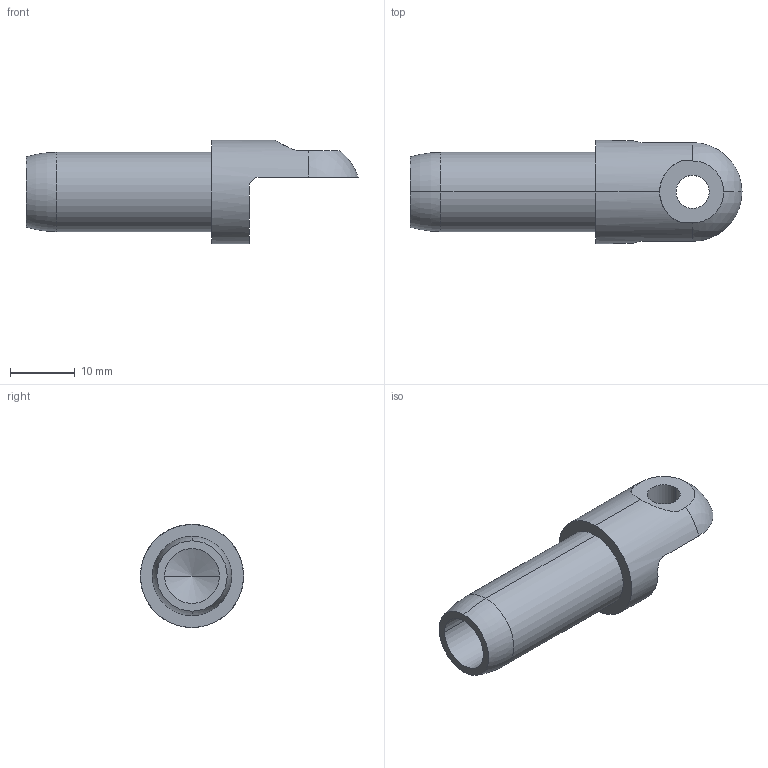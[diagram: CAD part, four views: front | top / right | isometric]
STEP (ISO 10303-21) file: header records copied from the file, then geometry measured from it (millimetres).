
FILE_DESCRIPTION (( 'STEP AP214' ), '1' );
FILE_NAME ('0.500 In. Single Sided Clevis Connector.STEP', '2014-08-07T18:49:43', ( 'ydmin' ), ( 'Microsoft' ), 'SwSTEP 2.0', 'SolidWorks 2013', '' );
FILE_SCHEMA (( 'AUTOMOTIVE_DESIGN' ));
Length unit declared in the file: inch
Products named in the file (1): 0.500 In. Single Sided Clevis Connector
Bounding box: 51.1 x 15.88 x 15.88 mm (x, y, z)
Volume: 3481.8 mm3; surface area: 3051.2 mm2
Topology: 1 solids, 1 shells, 22 faces, 52 edges, 32 vertices
Faces by surface type: cylinder 11, plane 5, torus 2, sphere 2, cone 2
Entity records: 1009 total; most frequent: CARTESIAN_POINT 161, DIRECTION 121, ORIENTED_EDGE 100, AXIS2_PLACEMENT_3D 52, EDGE_CURVE 50, VERTEX_POINT 32, CIRCLE 29, EDGE_LOOP 26
